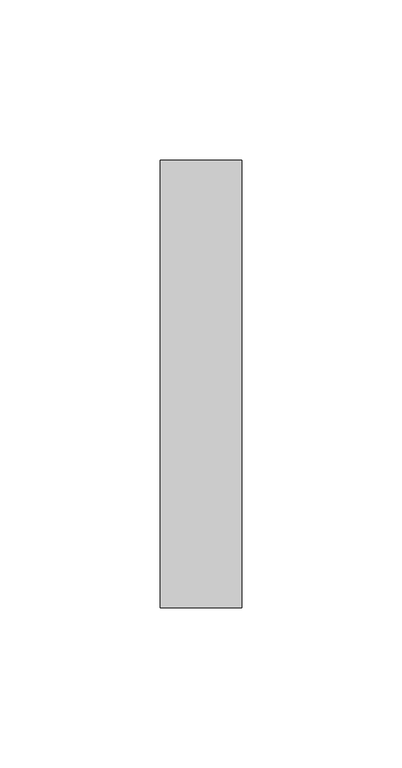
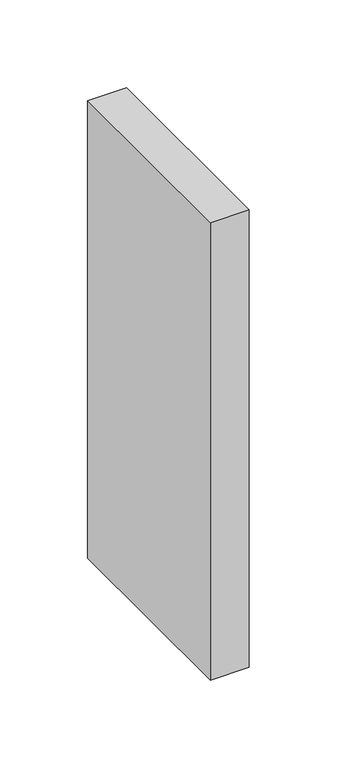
"""IFC4 building model written with IfcOpenShell, lengths in millimetres: proxy geometry, CAMBRIDGE^TABLE 2_4884 Rect-BOTTOM STILE 2."""

from ifc_helpers import new_model, si_unit, frame, origin, place, context, project, spatial, polyline, outline, extrude, source, transform, mapped, element, save


def generic_models_041c4687(model_context):
    return source(origin(), model_context, "Body", "SweptSolid", [
        extrude(outline(polyline([(635.0, -711.2), (609.6, -711.2), (609.6, -571.5), (635.0, -571.5), (635.0, -711.2)])), frame((0.0, 0.0, -768.35), z_axis=(0.0, 0.0, 1.0), x_axis=(1.0, 0.0, 0.0)), (0.0, 0.0, 1.0), 317.5),
    ])


if __name__ == "__main__":
    model = new_model("IFC4")
    model_context = context("Model", 3, world=origin())
    ifc_project = project(units=[si_unit("LENGTHUNIT", "METRE", prefix="MILLI")], contexts=[model_context])
    site = spatial("IfcSite", under=ifc_project)
    building = spatial("IfcBuilding", under=site)
    placement = place(None, origin())
    generic_models_shape = generic_models_041c4687(model_context)
    element("IfcBuildingElementProxy", 1, Name="CAMBRIDGE^TABLE 2_4884 Rect-BOTTOM STILE 2", ObjectType="CAMBRIDGE^TABLE 2_4884 Rect-BOTTOM STILE 2", at=placement, inside=building, context=model_context, shape_type="MappedRepresentation", body=[
        mapped(generic_models_shape, transform((0.0, 0.0, 0.0), x_axis=(1.0, 0.0, 0.0), y_axis=(0.0, 1.0, 0.0), z_axis=(0.0, 0.0, 1.0))),
    ])
    save(model, "model.ifc")
